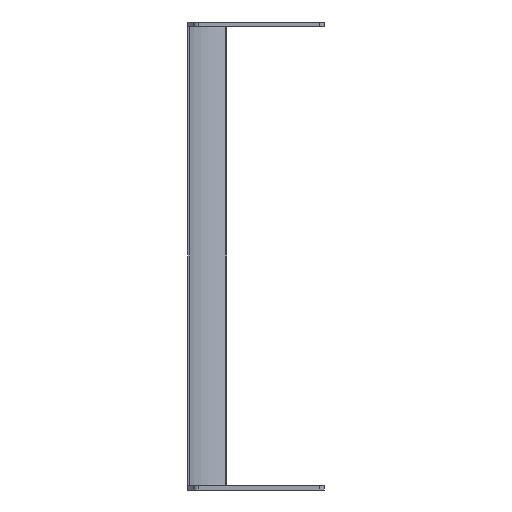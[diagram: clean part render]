
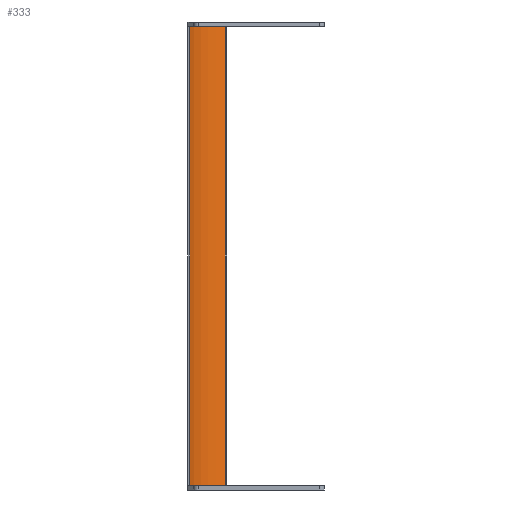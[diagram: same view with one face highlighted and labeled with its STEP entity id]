
A CAD part, left-side view. The second image highlights one B-rep face of the part: STEP entity #333.
In plain terms, the highlighted cylindrical face has radius 40.64 mm (diameter 81.28 mm), a partial arc.
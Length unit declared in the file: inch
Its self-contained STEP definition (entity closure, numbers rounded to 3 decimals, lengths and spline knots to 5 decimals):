
#40=CARTESIAN_POINT('',(-1.52,1.63,-6.118));
#41=DIRECTION('',(0.,0.,-1.));
#42=DIRECTION('',(0.914,-0.405,0.));
#43=AXIS2_PLACEMENT_3D('',#40,#41,#42);
#87=CARTESIAN_POINT('',(-1.52,1.63,6.118));
#88=DIRECTION('',(0.,0.,-1.));
#89=DIRECTION('',(0.914,-0.405,0.));
#90=AXIS2_PLACEMENT_3D('',#87,#88,#89);
#118=DIRECTION('',(0.,0.,1.));
#119=VECTOR('',#118,12.236);
#120=CARTESIAN_POINT('',(-1.00032,0.11675,-6.118));
#121=LINE('',#120,#119);
#122=DIRECTION('',(0.,0.,1.));
#123=VECTOR('',#122,12.236);
#124=CARTESIAN_POINT('',(-0.05742,0.98126,-6.118));
#125=LINE('',#124,#123);
#154=CARTESIAN_POINT('',(-0.05742,0.98126,-6.118));
#155=VERTEX_POINT('',#154);
#156=CARTESIAN_POINT('',(-1.00032,0.11675,-6.118));
#157=VERTEX_POINT('',#156);
#174=CARTESIAN_POINT('',(-0.05742,0.98126,6.118));
#175=VERTEX_POINT('',#174);
#176=CARTESIAN_POINT('',(-1.00032,0.11675,6.118));
#177=VERTEX_POINT('',#176);
#321=CARTESIAN_POINT('',(-1.52,1.63,-6.118));
#322=DIRECTION('',(0.,0.,1.));
#323=DIRECTION('',(1.,0.,0.));
#324=AXIS2_PLACEMENT_3D('',#321,#322,#323);
#325=CYLINDRICAL_SURFACE('',#324,1.6);
#326=ORIENTED_EDGE('',*,*,#191,.F.);
#328=ORIENTED_EDGE('',*,*,#327,.T.);
#329=ORIENTED_EDGE('',*,*,#247,.T.);
#330=ORIENTED_EDGE('',*,*,#314,.F.);
#331=EDGE_LOOP('',(#326,#328,#329,#330));
#332=FACE_OUTER_BOUND('',#331,.F.);
#44=CIRCLE('',#43,1.6);
#91=CIRCLE('',#90,1.6);
#191=EDGE_CURVE('',#155,#157,#44,.T.);
#247=EDGE_CURVE('',#175,#177,#91,.T.);
#314=EDGE_CURVE('',#157,#177,#121,.T.);
#327=EDGE_CURVE('',#155,#175,#125,.T.);
#333=ADVANCED_FACE('',(#332),#325,.F.);
